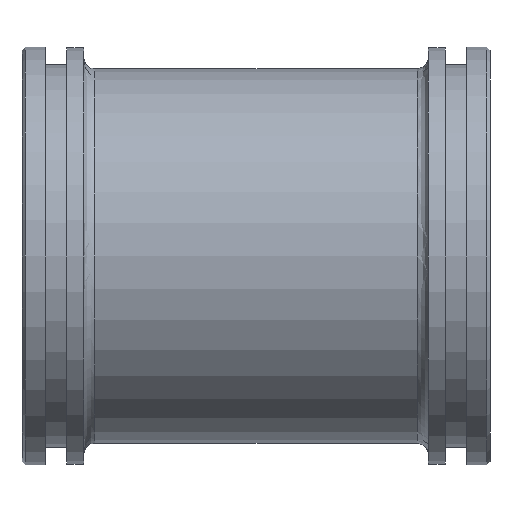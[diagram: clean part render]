
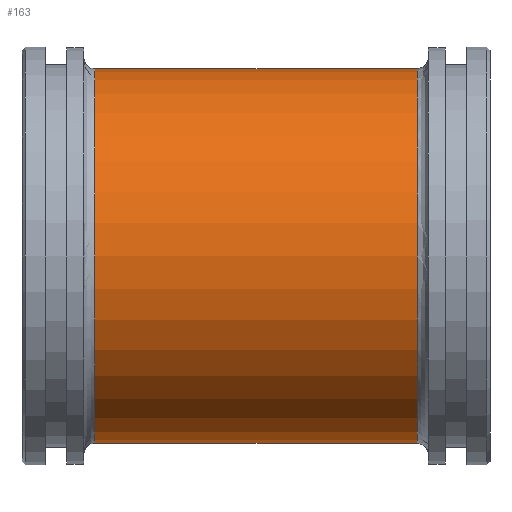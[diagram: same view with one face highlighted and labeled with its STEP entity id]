
A CAD part, front view. The second image highlights one B-rep face of the part: STEP entity #163.
In plain terms, the highlighted cylindrical face has radius 56 mm (diameter 112 mm), a full revolution.
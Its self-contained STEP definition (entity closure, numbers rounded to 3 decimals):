
#121=CARTESIAN_POINT('',(48.2,56.0,0.0));
#122=VERTEX_POINT('',#121);
#123=CARTESIAN_POINT('',(48.2,0.0,0.0));
#124=DIRECTION('',(1.0,0.0,0.0));
#125=DIRECTION('',(0.0,-1.0,0.0));
#126=AXIS2_PLACEMENT_3D('',#123,#124,#125);
#127=CIRCLE('',#126,56.0);
#128=EDGE_CURVE('',#122,#122,#127,.T.);
#144=CARTESIAN_POINT('',(0.,0.0,0.0));
#145=DIRECTION('',(1.0,0.0,0.0));
#146=DIRECTION('',(0.0,1.0,0.0));
#147=AXIS2_PLACEMENT_3D('',#144,#145,#146);
#148=CYLINDRICAL_SURFACE('',#147,56.0);
#149=CARTESIAN_POINT('',(-48.2,56.0,0.));
#150=VERTEX_POINT('',#149);
#151=CARTESIAN_POINT('',(-48.2,0.0,0.0));
#152=DIRECTION('',(-1.0,0.0,0.0));
#153=DIRECTION('',(0.0,-1.0,0.0));
#154=AXIS2_PLACEMENT_3D('',#151,#152,#153);
#155=CIRCLE('',#154,56.0);
#156=EDGE_CURVE('',#150,#150,#155,.T.);
#157=ORIENTED_EDGE('',*,*,#156,.F.);
#158=EDGE_LOOP('',(#157));
#159=FACE_OUTER_BOUND('',#158,.T.);
#160=ORIENTED_EDGE('',*,*,#128,.F.);
#161=EDGE_LOOP('',(#160));
#162=FACE_BOUND('',#161,.T.);
#163=ADVANCED_FACE('',(#159,#162),#148,.T.);
